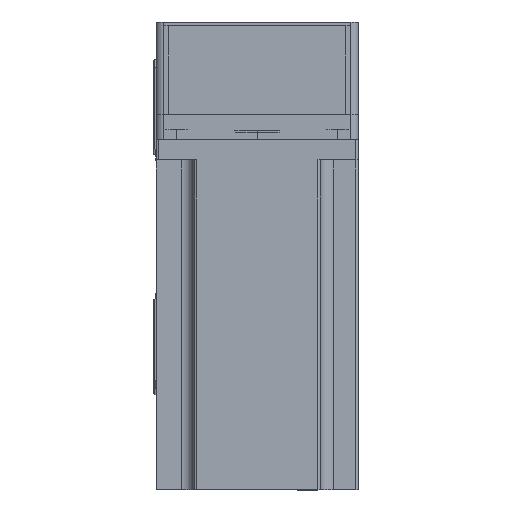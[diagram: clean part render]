
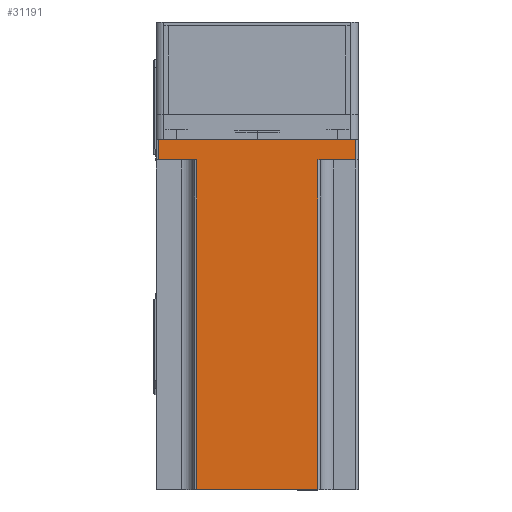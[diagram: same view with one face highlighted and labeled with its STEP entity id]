
A CAD part, top view. The second image highlights one B-rep face of the part: STEP entity #31191.
In plain terms, the highlighted planar face has unit normal (0, 0, 1) as drawn and (0, 1, 0) by its records, which use the part's own axes.
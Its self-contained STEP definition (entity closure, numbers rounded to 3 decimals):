
#868 = LINE ( 'NONE', #31537, #45501 ) ;
#2604 = LINE ( 'NONE', #53941, #24993 ) ;
#2632 = VERTEX_POINT ( 'NONE', #51664 ) ;
#2964 = VECTOR ( 'NONE', #26755, 1000. ) ;
#3982 = CARTESIAN_POINT ( 'NONE',  ( 25., 40., 8. ) ) ;
#5160 = VECTOR ( 'NONE', #18218, 1000. ) ;
#6075 = VECTOR ( 'NONE', #29502, 1000. ) ;
#6453 = DIRECTION ( 'NONE',  ( 0., 0., -1. ) ) ;
#6584 = VERTEX_POINT ( 'NONE', #7080 ) ;
#7080 = CARTESIAN_POINT ( 'NONE',  ( -39., 40., 8. ) ) ;
#9468 = VERTEX_POINT ( 'NONE', #11501 ) ;
#11501 = CARTESIAN_POINT ( 'NONE',  ( -24., 40., 8. ) ) ;
#12088 = DIRECTION ( 'NONE',  ( 0., 0., 1. ) ) ;
#12788 = VERTEX_POINT ( 'NONE', #46306 ) ;
#13241 = EDGE_CURVE ( 'NONE', #6584, #9468, #37846, .T. ) ;
#13994 = CARTESIAN_POINT ( 'NONE',  ( 40., 40., 0. ) ) ;
#14266 = ORIENTED_EDGE ( 'NONE', *, *, #53543, .T. ) ;
#14804 = EDGE_CURVE ( 'NONE', #2632, #47956, #50606, .T. ) ;
#17758 = EDGE_CURVE ( 'NONE', #35530, #38126, #2604, .T. ) ;
#17933 = ORIENTED_EDGE ( 'NONE', *, *, #13241, .T. ) ;
#18085 = ORIENTED_EDGE ( 'NONE', *, *, #28902, .T. ) ;
#18218 = DIRECTION ( 'NONE',  ( -1., 0., 0. ) ) ;
#19085 = CARTESIAN_POINT ( 'NONE',  ( 24., 40., 138.3 ) ) ;
#20574 = DIRECTION ( 'NONE',  ( 0., -1., 0. ) ) ;
#20644 = CARTESIAN_POINT ( 'NONE',  ( 24., 40., 8. ) ) ;
#20871 = CARTESIAN_POINT ( 'NONE',  ( -24., 40., 138.3 ) ) ;
#21484 = ORIENTED_EDGE ( 'NONE', *, *, #29664, .T. ) ;
#22487 = EDGE_CURVE ( 'NONE', #9468, #38126, #36466, .T. ) ;
#23367 = LINE ( 'NONE', #3982, #33173 ) ;
#24993 = VECTOR ( 'NONE', #53579, 1000. ) ;
#25303 = CARTESIAN_POINT ( 'NONE',  ( 39., 40., 138.3 ) ) ;
#25772 = ORIENTED_EDGE ( 'NONE', *, *, #14804, .T. ) ;
#26397 = LINE ( 'NONE', #37177, #34894 ) ;
#26688 = VECTOR ( 'NONE', #46125, 1000. ) ;
#26755 = DIRECTION ( 'NONE',  ( 0., 0., 1. ) ) ;
#28466 = EDGE_LOOP ( 'NONE', ( #17933, #46414, #49104, #18085, #52081, #25772, #14266, #21484 ) ) ;
#28792 = PLANE ( 'NONE',  #45622 ) ;
#28902 = EDGE_CURVE ( 'NONE', #35530, #32144, #868, .T. ) ;
#29502 = DIRECTION ( 'NONE',  ( 0., 0., -1. ) ) ;
#29664 = EDGE_CURVE ( 'NONE', #12788, #6584, #26397, .T. ) ;
#31191 = ADVANCED_FACE ( 'NONE', ( #45074 ), #28792, .F. ) ;
#31537 = CARTESIAN_POINT ( 'NONE',  ( 24., 40., 138.3 ) ) ;
#32144 = VERTEX_POINT ( 'NONE', #20644 ) ;
#33173 = VECTOR ( 'NONE', #33310, 1000. ) ;
#33310 = DIRECTION ( 'NONE',  ( -1., 0., 0. ) ) ;
#33506 = CARTESIAN_POINT ( 'NONE',  ( -25., 40., 8. ) ) ;
#34894 = VECTOR ( 'NONE', #12088, 1000. ) ;
#35530 = VERTEX_POINT ( 'NONE', #19085 ) ;
#36466 = LINE ( 'NONE', #51773, #2964 ) ;
#37177 = CARTESIAN_POINT ( 'NONE',  ( -39., 40., 138.3 ) ) ;
#37736 = CARTESIAN_POINT ( 'NONE',  ( 39., 40., 0. ) ) ;
#37846 = LINE ( 'NONE', #33506, #26688 ) ;
#38106 = EDGE_CURVE ( 'NONE', #2632, #32144, #23367, .T. ) ;
#38126 = VERTEX_POINT ( 'NONE', #20871 ) ;
#38598 = LINE ( 'NONE', #13994, #5160 ) ;
#45074 = FACE_OUTER_BOUND ( 'NONE', #28466, .T. ) ;
#45501 = VECTOR ( 'NONE', #6453, 1000. ) ;
#45622 = AXIS2_PLACEMENT_3D ( 'NONE', #45624, #20574, #49798 ) ;
#45624 = CARTESIAN_POINT ( 'NONE',  ( 40., 40., 138.3 ) ) ;
#46125 = DIRECTION ( 'NONE',  ( 1., 0., 0. ) ) ;
#46306 = CARTESIAN_POINT ( 'NONE',  ( -39., 40., 0. ) ) ;
#46414 = ORIENTED_EDGE ( 'NONE', *, *, #22487, .T. ) ;
#47956 = VERTEX_POINT ( 'NONE', #37736 ) ;
#49104 = ORIENTED_EDGE ( 'NONE', *, *, #17758, .F. ) ;
#49798 = DIRECTION ( 'NONE',  ( 1., 0., 0. ) ) ;
#50606 = LINE ( 'NONE', #25303, #6075 ) ;
#51664 = CARTESIAN_POINT ( 'NONE',  ( 39., 40., 8. ) ) ;
#51773 = CARTESIAN_POINT ( 'NONE',  ( -24., 40., 138.3 ) ) ;
#52081 = ORIENTED_EDGE ( 'NONE', *, *, #38106, .F. ) ;
#53543 = EDGE_CURVE ( 'NONE', #47956, #12788, #38598, .T. ) ;
#53579 = DIRECTION ( 'NONE',  ( -1., 0., 0. ) ) ;
#53941 = CARTESIAN_POINT ( 'NONE',  ( 40., 40., 138.3 ) ) ;
